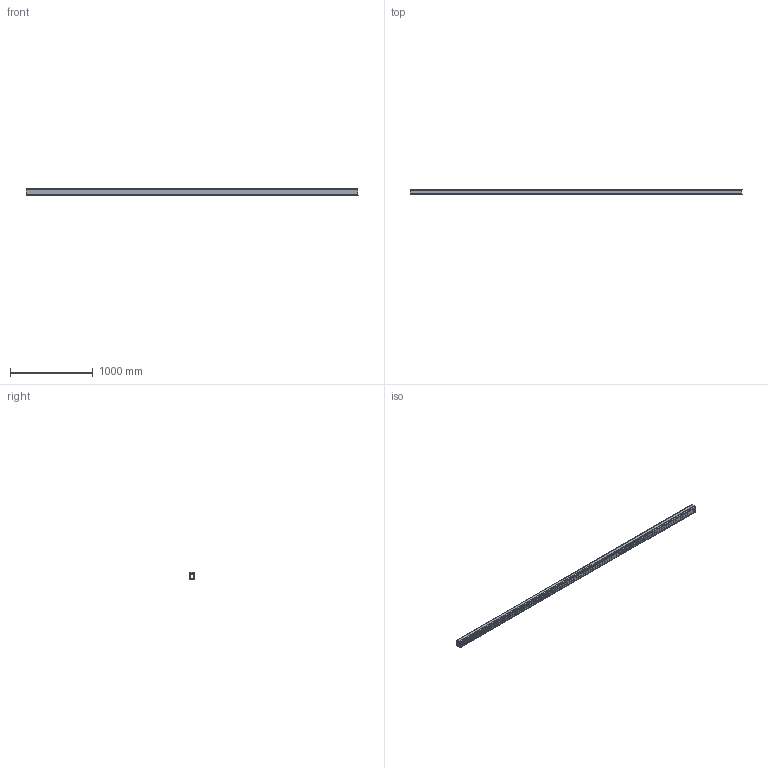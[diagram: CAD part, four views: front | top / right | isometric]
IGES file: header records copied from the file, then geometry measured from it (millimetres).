
Start section: Comment
Global section: file name: Gaine_2010_06.igs; native system:  By UGS Corp.; preprocessor: XPlus GENERIC/IGES 3.0; author: Author; organization: Title; date: 20100624.111109; units: millimetre
Bounding box: 4000 x 64 x 90 mm (x, y, z)
Surface area: 2542182.9 mm2 (no closed solid volume)
Topology: 0 solids, 0 shells, 192 faces, 1140 edges, 1140 vertices
Faces by surface type: bspline 192
